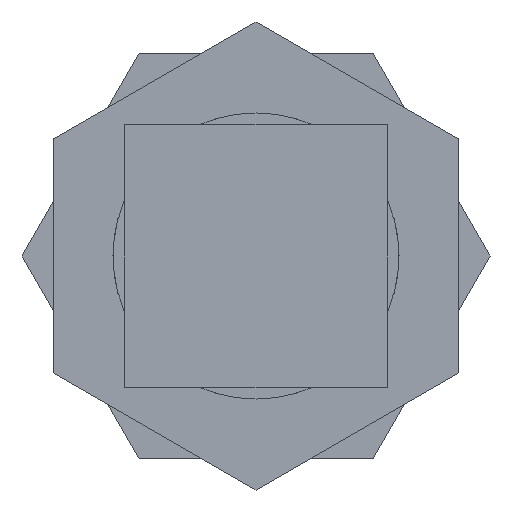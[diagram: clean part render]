
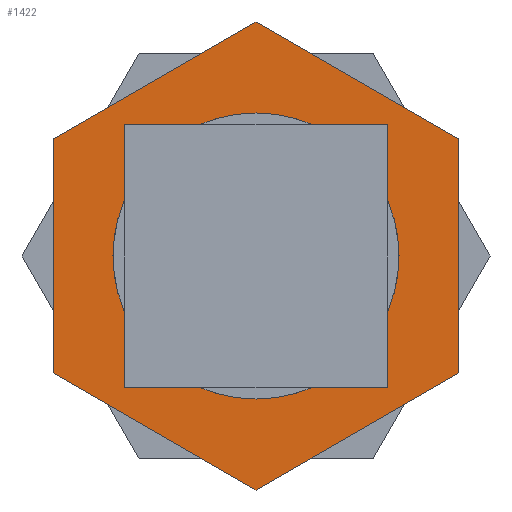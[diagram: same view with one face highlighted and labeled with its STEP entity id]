
A CAD part, front view. The second image highlights one B-rep face of the part: STEP entity #1422.
In plain terms, the highlighted planar face has unit normal (0, -1, 0) as drawn and (0, 0, 1) by its records, which use the part's own axes.
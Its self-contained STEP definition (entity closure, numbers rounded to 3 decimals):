
#14 = VERTEX_POINT ( 'NONE', #295 ) ;
#15 = VERTEX_POINT ( 'NONE', #294 ) ;
#17 = EDGE_CURVE ( 'NONE', #15, #14, #289, .T. ) ;
#31 = EDGE_CURVE ( 'NONE', #33, #1387, #328, .T. ) ;
#33 = VERTEX_POINT ( 'NONE', #320 ) ;
#201 = ORIENTED_EDGE ( 'NONE', *, *, #31, .F. ) ;
#202 = ORIENTED_EDGE ( 'NONE', *, *, #1378, .F. ) ;
#203 = ORIENTED_EDGE ( 'NONE', *, *, #1393, .F. ) ;
#204 = ORIENTED_EDGE ( 'NONE', *, *, #1414, .F. ) ;
#205 = ORIENTED_EDGE ( 'NONE', *, *, #1402, .F. ) ;
#286 = DIRECTION ( 'NONE',  ( 0., 0., -1. ) ) ;
#287 = CARTESIAN_POINT ( 'NONE',  ( 0., 0., 3. ) ) ;
#288 = AXIS2_PLACEMENT_3D ( 'NONE', #287, #286, #347 ) ;
#289 = CIRCLE ( 'NONE', #288, 6. ) ;
#294 = CARTESIAN_POINT ( 'NONE',  ( 6., 0., 3. ) ) ;
#295 = CARTESIAN_POINT ( 'NONE',  ( -6., 0., 3. ) ) ;
#320 = CARTESIAN_POINT ( 'NONE',  ( 8.5, -4.907, 3. ) ) ;
#325 = DIRECTION ( 'NONE',  ( -0.866, -0.5, 0. ) ) ;
#326 = VECTOR ( 'NONE', #325, 1000. ) ;
#327 = CARTESIAN_POINT ( 'NONE',  ( 8.5, -4.907, 3. ) ) ;
#328 = LINE ( 'NONE', #327, #326 ) ;
#347 = DIRECTION ( 'NONE',  ( -1., 0., 0. ) ) ;
#789 = CARTESIAN_POINT ( 'NONE',  ( 8.5, 4.907, 3. ) ) ;
#790 = DIRECTION ( 'NONE',  ( 0., -1., 0. ) ) ;
#791 = VECTOR ( 'NONE', #790, 1000. ) ;
#792 = CARTESIAN_POINT ( 'NONE',  ( 8.5, 4.907, 3. ) ) ;
#796 = LINE ( 'NONE', #792, #791 ) ;
#828 = CARTESIAN_POINT ( 'NONE',  ( 0., 9.815, 3. ) ) ;
#829 = DIRECTION ( 'NONE',  ( 0.866, -0.5, 0. ) ) ;
#830 = VECTOR ( 'NONE', #829, 1000. ) ;
#831 = CARTESIAN_POINT ( 'NONE',  ( 0., 9.815, 3. ) ) ;
#832 = LINE ( 'NONE', #831, #830 ) ;
#847 = CARTESIAN_POINT ( 'NONE',  ( 0., -9.815, 3. ) ) ;
#852 = CARTESIAN_POINT ( 'NONE',  ( -8.5, 4.907, 3. ) ) ;
#855 = PLANE ( 'NONE',  #859 ) ;
#856 = FACE_OUTER_BOUND ( 'NONE', #1405, .T. ) ;
#857 = FACE_BOUND ( 'NONE', #1415, .T. ) ;
#858 = CARTESIAN_POINT ( 'NONE',  ( 0., 0., 3. ) ) ;
#859 = AXIS2_PLACEMENT_3D ( 'NONE', #858, #904, #903 ) ;
#860 = DIRECTION ( 'NONE',  ( -0.866, 0.5, 0. ) ) ;
#861 = VECTOR ( 'NONE', #860, 1000. ) ;
#862 = CARTESIAN_POINT ( 'NONE',  ( 0., -9.815, 3. ) ) ;
#863 = LINE ( 'NONE', #862, #861 ) ;
#864 = DIRECTION ( 'NONE',  ( 0.866, 0.5, 0. ) ) ;
#865 = VECTOR ( 'NONE', #864, 1000. ) ;
#866 = CARTESIAN_POINT ( 'NONE',  ( -8.5, 4.907, 3. ) ) ;
#870 = LINE ( 'NONE', #866, #865 ) ;
#878 = CARTESIAN_POINT ( 'NONE',  ( -8.5, -4.907, 3. ) ) ;
#879 = DIRECTION ( 'NONE',  ( 0., 1., 0. ) ) ;
#880 = VECTOR ( 'NONE', #879, 1000. ) ;
#881 = CARTESIAN_POINT ( 'NONE',  ( -8.5, -4.907, 3. ) ) ;
#885 = LINE ( 'NONE', #881, #880 ) ;
#899 = DIRECTION ( 'NONE',  ( -1., 0., 0. ) ) ;
#900 = DIRECTION ( 'NONE',  ( 0., 0., -1. ) ) ;
#901 = CARTESIAN_POINT ( 'NONE',  ( 0., 0., 3. ) ) ;
#902 = AXIS2_PLACEMENT_3D ( 'NONE', #901, #900, #899 ) ;
#903 = DIRECTION ( 'NONE',  ( 1., 0., 0. ) ) ;
#904 = DIRECTION ( 'NONE',  ( 0., 0., 1. ) ) ;
#905 = CIRCLE ( 'NONE', #902, 6. ) ;
#1378 = EDGE_CURVE ( 'NONE', #1380, #33, #796, .T. ) ;
#1380 = VERTEX_POINT ( 'NONE', #789 ) ;
#1386 = VERTEX_POINT ( 'NONE', #852 ) ;
#1387 = VERTEX_POINT ( 'NONE', #847 ) ;
#1393 = EDGE_CURVE ( 'NONE', #1394, #1380, #832, .T. ) ;
#1394 = VERTEX_POINT ( 'NONE', #828 ) ;
#1402 = EDGE_CURVE ( 'NONE', #1404, #1386, #885, .T. ) ;
#1404 = VERTEX_POINT ( 'NONE', #878 ) ;
#1405 = EDGE_LOOP ( 'NONE', ( #1412, #201, #202, #203, #204, #205 ) ) ;
#1412 = ORIENTED_EDGE ( 'NONE', *, *, #1421, .F. ) ;
#1414 = EDGE_CURVE ( 'NONE', #1386, #1394, #870, .T. ) ;
#1415 = EDGE_LOOP ( 'NONE', ( #1423, #1426 ) ) ;
#1421 = EDGE_CURVE ( 'NONE', #1387, #1404, #863, .T. ) ;
#1422 = ADVANCED_FACE ( 'NONE', ( #857, #856 ), #855, .T. ) ;
#1423 = ORIENTED_EDGE ( 'NONE', *, *, #1424, .T. ) ;
#1424 = EDGE_CURVE ( 'NONE', #14, #15, #905, .T. ) ;
#1426 = ORIENTED_EDGE ( 'NONE', *, *, #17, .T. ) ;
